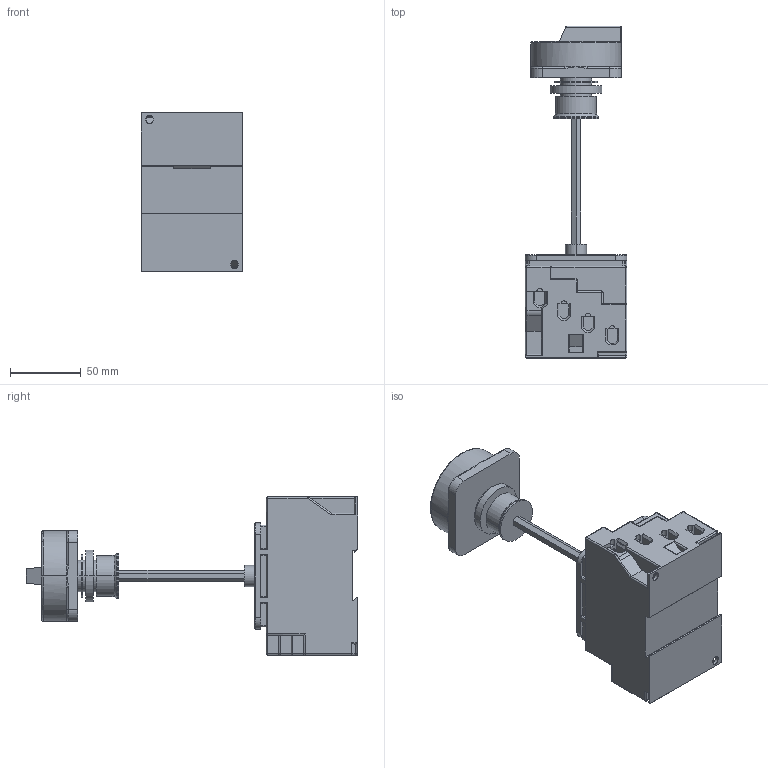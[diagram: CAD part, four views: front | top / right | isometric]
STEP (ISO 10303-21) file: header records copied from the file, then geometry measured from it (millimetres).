
FILE_DESCRIPTION (( 'STEP AP203' ), '1' );
FILE_NAME ('LS55 VZVH4 A4.STEP', '2014-07-23T05:04:19', ( 'edv' ), ( '' ), 'SwSTEP 2.0', 'SolidWorks 2014', '' );
FILE_SCHEMA (( 'CONFIG_CONTROL_DESIGN' ));
Length unit declared in the file: millimetre
Products named in the file (3): Dummie Schalterkörper LS55_VZV; TK2Z H4; LS55 VZVH4 A4
Assembly tree (2 placements, depth 2):
  LS55 VZVH4 A4
    Dummie Schalterkörper LS55_VZV
    TK2Z H4
Bounding box: 72.1 x 234.7 x 112.2 mm (x, y, z)
Volume: 605186.3 mm3; surface area: 77002.2 mm2
Topology: 2 solids, 2 shells, 464 faces, 1174 edges, 702 vertices
Faces by surface type: plane 242, cylinder 162, torus 30, sphere 18, bspline 10, cone 2
Entity records: 14214 total; most frequent: CARTESIAN_POINT 2891, DIRECTION 2317, ORIENTED_EDGE 2298, EDGE_CURVE 1149, AXIS2_PLACEMENT_3D 782, LINE 753, VECTOR 753, VERTEX_POINT 702
